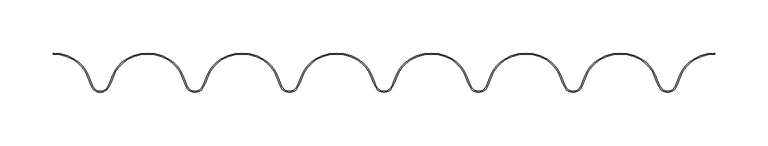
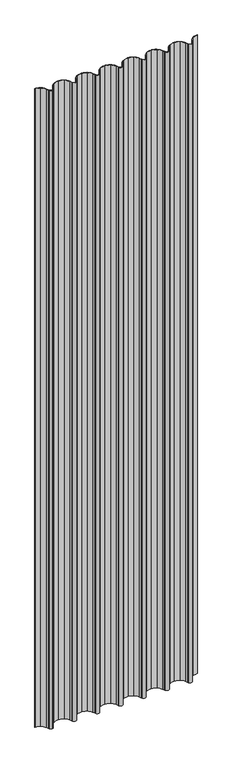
"""IFC4 building model written with IfcOpenShell, lengths in millimetres: plate geometry, Regolare Couverture 623  : Regolare Couverture 623 ."""

from ifc_helpers import new_model, si_unit, point, frame_2d, origin, origin_with_axes, place, context, project, spatial, polyline, circle_curve, trimmed, segment, composite_curve, outline, extrude, source, transform, mapped, element, save


def plate_453710f5(model_context):
    return source(origin(), model_context, "Body", "SweptSolid", [
        extrude(outline(composite_curve([segment(trimmed(circle_curve(frame_2d((-311.6802118, -1.5098563)), 37.4503244), [point((-292.1394616, 30.4383187))], [point((-311.6802118, 35.9404682))], True, "CARTESIAN"), True, "CONTINUOUS"), segment(polyline([(-311.6802118, 35.9404682), (-311.6802118, 36.9404682)]), True, "CONTINUOUS"), segment(trimmed(circle_curve(frame_2d((-311.6802118, -1.5098563)), 38.4503244), [point((-311.6802118, 36.9404682))], [point((-291.6176838, 31.2914001))], False, "CARTESIAN"), True, "CONTINUOUS"), segment(trimmed(circle_curve(frame_2d((-308.1145665, 4.3198001)), 31.6166783), [point((-291.6176838, 31.2914001))], [point((-278.7590823, 16.0616012))], False, "CARTESIAN"), True, "CONTINUOUS"), segment(polyline([(-278.7590823, 16.0616012), (-275.8898606, 8.8980757), (-274.2435069, 5.4633665)]), True, "CONTINUOUS"), segment(trimmed(circle_curve(frame_2d((-267.1544672, 8.8613445)), 7.8613445), [point((-274.2435069, 5.4633665))], [point((-267.1544672, 1.0))], True, "CARTESIAN"), True, "CONTINUOUS"), segment(trimmed(circle_curve(frame_2d((-267.1544672, 8.8613445)), 7.8613445), [point((-267.1544672, 1.0))], [point((-260.0654276, 5.4633665))], True, "CARTESIAN"), True, "CONTINUOUS"), segment(polyline([(-260.0654276, 5.4633665), (-258.4190739, 8.8980757), (-255.5498522, 16.0616012)]), True, "CONTINUOUS"), segment(trimmed(circle_curve(frame_2d((-226.1943679, 4.3198001)), 31.6166783), [point((-255.5498522, 16.0616012))], [point((-242.6912507, 31.2914001))], False, "CARTESIAN"), True, "CONTINUOUS"), segment(trimmed(circle_curve(frame_2d((-222.6287227, -1.5098563)), 38.4503244), [point((-242.6912507, 31.2914001))], [point((-222.6287227, 36.9404682))], False, "CARTESIAN"), True, "CONTINUOUS"), segment(trimmed(circle_curve(frame_2d((-222.6287227, -1.5098563)), 38.4503244), [point((-222.6287227, 36.9404682))], [point((-202.5661947, 31.2914001))], False, "CARTESIAN"), True, "CONTINUOUS"), segment(trimmed(circle_curve(frame_2d((-219.0630775, 4.3198001)), 31.6166783), [point((-202.5661947, 31.2914001))], [point((-189.7075932, 16.0616012))], False, "CARTESIAN"), True, "CONTINUOUS"), segment(polyline([(-189.7075932, 16.0616012), (-186.8383715, 8.8980757), (-185.1920178, 5.4633665)]), True, "CONTINUOUS"), segment(trimmed(circle_curve(frame_2d((-178.1029782, 8.8613445)), 7.8613445), [point((-185.1920178, 5.4633665))], [point((-171.0139385, 5.4633665))], True, "CARTESIAN"), True, "CONTINUOUS"), segment(polyline([(-171.0139385, 5.4633665), (-169.3675848, 8.8980757), (-166.498363, 16.0616014)]), True, "CONTINUOUS"), segment(trimmed(circle_curve(frame_2d((-137.1428789, 4.3198001)), 31.6166783), [point((-166.498363, 16.0616014))], [point((-153.6397616, 31.2914001))], False, "CARTESIAN"), True, "CONTINUOUS"), segment(trimmed(circle_curve(frame_2d((-133.5772336, -1.5098563)), 38.4503244), [point((-153.6397616, 31.2914001))], [point((-133.5772336, 36.9404682))], False, "CARTESIAN"), True, "CONTINUOUS"), segment(trimmed(circle_curve(frame_2d((-133.5772336, -1.5098563)), 38.4503244), [point((-133.5772336, 36.9404682))], [point((-113.5147056, 31.2914001))], False, "CARTESIAN"), True, "CONTINUOUS"), segment(trimmed(circle_curve(frame_2d((-130.0115884, 4.3198001)), 31.6166783), [point((-113.5147056, 31.2914001))], [point((-100.6561042, 16.0616014))], False, "CARTESIAN"), True, "CONTINUOUS"), segment(polyline([(-100.6561042, 16.0616014), (-97.7868824, 8.8980757), (-96.1405287, 5.4633665)]), True, "CONTINUOUS"), segment(trimmed(circle_curve(frame_2d((-89.0514891, 8.8613445)), 7.8613445), [point((-96.1405287, 5.4633665))], [point((-81.9624494, 5.4633665))], True, "CARTESIAN"), True, "CONTINUOUS"), segment(polyline([(-81.9624494, 5.4633665), (-80.3160957, 8.8980757), (-77.446874, 16.0616012)]), True, "CONTINUOUS"), segment(trimmed(circle_curve(frame_2d((-48.0913898, 4.3198001)), 31.6166783), [point((-77.446874, 16.0616012))], [point((-64.5882725, 31.2914001))], False, "CARTESIAN"), True, "CONTINUOUS"), segment(trimmed(circle_curve(frame_2d((-44.5257445, -1.5098563)), 38.4503244), [point((-64.5882725, 31.2914001))], [point((-44.5257445, 36.9404682))], False, "CARTESIAN"), True, "CONTINUOUS"), segment(trimmed(circle_curve(frame_2d((-44.5257445, -1.5098563)), 38.4503244), [point((-44.5257445, 36.9404682))], [point((-24.4632165, 31.2914001))], False, "CARTESIAN"), True, "CONTINUOUS"), segment(trimmed(circle_curve(frame_2d((-40.9600993, 4.3198001)), 31.6166783), [point((-24.4632165, 31.2914001))], [point((-11.604615, 16.061601))], False, "CARTESIAN"), True, "CONTINUOUS"), segment(polyline([(-11.604615, 16.061601), (-8.7353934, 8.8980757), (-7.0890396, 5.4633665)]), True, "CONTINUOUS"), segment(trimmed(circle_curve(frame_2d((0.0, 8.8613445)), 7.8613445), [point((-7.0890396, 5.4633665))], [point((7.0890396, 5.4633665))], True, "CARTESIAN"), True, "CONTINUOUS"), segment(polyline([(7.0890396, 5.4633665), (8.7353934, 8.8980757), (11.6046151, 16.0616012)]), True, "CONTINUOUS"), segment(trimmed(circle_curve(frame_2d((40.9600993, 4.3198001)), 31.6166783), [point((11.6046151, 16.0616012))], [point((24.4632165, 31.2914001))], False, "CARTESIAN"), True, "CONTINUOUS"), segment(trimmed(circle_curve(frame_2d((44.5257445, -1.5098563)), 38.4503244), [point((24.4632165, 31.2914001))], [point((44.5257445, 36.9404682))], False, "CARTESIAN"), True, "CONTINUOUS"), segment(trimmed(circle_curve(frame_2d((44.5257445, -1.5098563)), 38.4503244), [point((44.5257445, 36.9404682))], [point((64.5882725, 31.2914001))], False, "CARTESIAN"), True, "CONTINUOUS"), segment(trimmed(circle_curve(frame_2d((48.0913898, 4.3198001)), 31.6166783), [point((64.5882725, 31.2914001))], [point((77.446874, 16.0616012))], False, "CARTESIAN"), True, "CONTINUOUS"), segment(polyline([(77.446874, 16.0616012), (80.3160957, 8.8980757), (81.9624494, 5.4633665)]), True, "CONTINUOUS"), segment(trimmed(circle_curve(frame_2d((89.0514891, 8.8613445)), 7.8613445), [point((81.9624494, 5.4633665))], [point((96.1405287, 5.4633665))], True, "CARTESIAN"), True, "CONTINUOUS"), segment(polyline([(96.1405287, 5.4633665), (97.7868824, 8.8980757), (100.6561042, 16.0616012)]), True, "CONTINUOUS"), segment(trimmed(circle_curve(frame_2d((130.0115884, 4.3198001)), 31.6166783), [point((100.6561042, 16.0616012))], [point((113.5147056, 31.2914001))], False, "CARTESIAN"), True, "CONTINUOUS"), segment(trimmed(circle_curve(frame_2d((133.5772336, -1.5098563)), 38.4503244), [point((113.5147056, 31.2914001))], [point((133.5772336, 36.9404682))], False, "CARTESIAN"), True, "CONTINUOUS"), segment(trimmed(circle_curve(frame_2d((133.5772336, -1.5098563)), 38.4503244), [point((133.5772336, 36.9404682))], [point((153.6397616, 31.2914001))], False, "CARTESIAN"), True, "CONTINUOUS"), segment(trimmed(circle_curve(frame_2d((137.1428789, 4.3198001)), 31.6166783), [point((153.6397616, 31.2914001))], [point((166.4983631, 16.0616012))], False, "CARTESIAN"), True, "CONTINUOUS"), segment(polyline([(166.4983631, 16.0616012), (169.3675848, 8.8980757), (171.0139385, 5.4633665)]), True, "CONTINUOUS"), segment(trimmed(circle_curve(frame_2d((178.1029782, 8.8613445)), 7.8613445), [point((171.0139385, 5.4633665))], [point((185.1920178, 5.4633665))], True, "CARTESIAN"), True, "CONTINUOUS"), segment(polyline([(185.1920178, 5.4633665), (186.8383715, 8.8980757), (189.7075932, 16.0616012)]), True, "CONTINUOUS"), segment(trimmed(circle_curve(frame_2d((219.0630775, 4.3198001)), 31.6166783), [point((189.7075932, 16.0616012))], [point((202.5661947, 31.2914001))], False, "CARTESIAN"), True, "CONTINUOUS"), segment(trimmed(circle_curve(frame_2d((222.6287227, -1.5098563)), 38.4503244), [point((202.5661947, 31.2914001))], [point((222.6287227, 36.9404682))], False, "CARTESIAN"), True, "CONTINUOUS"), segment(trimmed(circle_curve(frame_2d((222.6287227, -1.5098563)), 38.4503244), [point((222.6287227, 36.9404682))], [point((242.6912507, 31.2914001))], False, "CARTESIAN"), True, "CONTINUOUS"), segment(trimmed(circle_curve(frame_2d((226.1943679, 4.3198001)), 31.6166783), [point((242.6912507, 31.2914001))], [point((255.5498522, 16.0616012))], False, "CARTESIAN"), True, "CONTINUOUS"), segment(polyline([(255.5498522, 16.0616012), (258.4190739, 8.8980757), (260.0654276, 5.4633665)]), True, "CONTINUOUS"), segment(trimmed(circle_curve(frame_2d((267.1544672, 8.8613445)), 7.8613445), [point((260.0654276, 5.4633665))], [point((274.2435069, 5.4633665))], True, "CARTESIAN"), True, "CONTINUOUS"), segment(polyline([(274.2435069, 5.4633665), (275.8898606, 8.8980757), (278.7590823, 16.0616012)]), True, "CONTINUOUS"), segment(trimmed(circle_curve(frame_2d((308.1145665, 4.3198001)), 31.6166783), [point((278.7590823, 16.0616012))], [point((291.6176838, 31.2914001))], False, "CARTESIAN"), True, "CONTINUOUS"), segment(trimmed(circle_curve(frame_2d((311.6802118, -1.5098563)), 38.4503244), [point((291.6176838, 31.2914001))], [point((311.6802118, 36.9404682))], False, "CARTESIAN"), True, "CONTINUOUS"), segment(polyline([(311.6802118, 36.9404682), (311.6802118, 35.9404682)]), True, "CONTINUOUS"), segment(trimmed(circle_curve(frame_2d((311.6802118, -1.5098563)), 37.4503244), [point((311.6802118, 35.9404682))], [point((292.1394616, 30.4383187))], True, "CARTESIAN"), True, "CONTINUOUS"), segment(trimmed(circle_curve(frame_2d((308.1145665, 4.3198001)), 30.6166783), [point((292.1394616, 30.4383187))], [point((279.6874767, 15.6900047))], True, "CARTESIAN"), True, "CONTINUOUS"), segment(polyline([(279.6874767, 15.6900047), (276.8058908, 8.4956098), (275.1452661, 5.0311277)]), True, "CONTINUOUS"), segment(trimmed(circle_curve(frame_2d((267.1544672, 8.8613445)), 8.8613445), [point((275.1452661, 5.0311277))], [point((259.1636684, 5.0311277))], False, "CARTESIAN"), True, "CONTINUOUS"), segment(polyline([(259.1636684, 5.0311277), (257.5030437, 8.4956098), (254.6214578, 15.6900047)]), True, "CONTINUOUS"), segment(trimmed(circle_curve(frame_2d((226.1943679, 4.3198001)), 30.6166783), [point((254.6214578, 15.6900047))], [point((242.1694728, 30.4383187))], True, "CARTESIAN"), True, "CONTINUOUS"), segment(trimmed(circle_curve(frame_2d((222.6287227, -1.5098563)), 37.4503244), [point((242.1694728, 30.4383187))], [point((222.6287227, 35.9404682))], True, "CARTESIAN"), True, "CONTINUOUS"), segment(trimmed(circle_curve(frame_2d((222.6287227, -1.5098563)), 37.4503244), [point((222.6287227, 35.9404682))], [point((203.0879726, 30.4383187))], True, "CARTESIAN"), True, "CONTINUOUS"), segment(trimmed(circle_curve(frame_2d((219.0630775, 4.3198001)), 30.6166783), [point((203.0879726, 30.4383187))], [point((190.6359876, 15.6900047))], True, "CARTESIAN"), True, "CONTINUOUS"), segment(polyline([(190.6359876, 15.6900047), (187.7544017, 8.4956098), (186.093777, 5.0311277)]), True, "CONTINUOUS"), segment(trimmed(circle_curve(frame_2d((178.1029782, 8.8613445)), 8.8613445), [point((186.093777, 5.0311277))], [point((170.1121793, 5.0311277))], False, "CARTESIAN"), True, "CONTINUOUS"), segment(polyline([(170.1121793, 5.0311277), (168.4515546, 8.4956098), (165.5699687, 15.6900047)]), True, "CONTINUOUS"), segment(trimmed(circle_curve(frame_2d((137.1428789, 4.3198001)), 30.6166783), [point((165.5699687, 15.6900047))], [point((153.1179838, 30.4383187))], True, "CARTESIAN"), True, "CONTINUOUS"), segment(trimmed(circle_curve(frame_2d((133.5772336, -1.5098563)), 37.4503244), [point((153.1179838, 30.4383187))], [point((133.5772336, 35.9404682))], True, "CARTESIAN"), True, "CONTINUOUS"), segment(trimmed(circle_curve(frame_2d((133.5772336, -1.5098563)), 37.4503244), [point((133.5772336, 35.9404682))], [point((114.0364835, 30.4383187))], True, "CARTESIAN"), True, "CONTINUOUS"), segment(trimmed(circle_curve(frame_2d((130.0115884, 4.3198001)), 30.6166783), [point((114.0364835, 30.4383187))], [point((101.5844985, 15.6900047))], True, "CARTESIAN"), True, "CONTINUOUS"), segment(polyline([(101.5844985, 15.6900047), (98.7029126, 8.4956098), (97.0422879, 5.0311277)]), True, "CONTINUOUS"), segment(trimmed(circle_curve(frame_2d((89.0514891, 8.8613445)), 8.8613445), [point((97.0422879, 5.0311277))], [point((81.0606903, 5.0311277))], False, "CARTESIAN"), True, "CONTINUOUS"), segment(polyline([(81.0606903, 5.0311277), (79.4000655, 8.4956098), (76.5184796, 15.6900047)]), True, "CONTINUOUS"), segment(trimmed(circle_curve(frame_2d((48.0913898, 4.3198001)), 30.6166783), [point((76.5184796, 15.6900047))], [point((64.0664947, 30.4383187))], True, "CARTESIAN"), True, "CONTINUOUS"), segment(trimmed(circle_curve(frame_2d((44.5257445, -1.5098563)), 37.4503244), [point((64.0664947, 30.4383187))], [point((44.5257445, 35.9404682))], True, "CARTESIAN"), True, "CONTINUOUS"), segment(trimmed(circle_curve(frame_2d((44.5257445, -1.5098563)), 37.4503244), [point((44.5257445, 35.9404682))], [point((24.9849944, 30.4383187))], True, "CARTESIAN"), True, "CONTINUOUS"), segment(trimmed(circle_curve(frame_2d((40.9600993, 4.3198001)), 30.6166783), [point((24.9849944, 30.4383187))], [point((12.5330095, 15.6900047))], True, "CARTESIAN"), True, "CONTINUOUS"), segment(polyline([(12.5330095, 15.6900047), (9.6514235, 8.4956098), (7.9907988, 5.0311277)]), True, "CONTINUOUS"), segment(trimmed(circle_curve(frame_2d((0.0, 8.8613445)), 8.8613445), [point((7.9907988, 5.0311277))], [point((-7.9907988, 5.0311277))], False, "CARTESIAN"), True, "CONTINUOUS"), segment(polyline([(-7.9907988, 5.0311277), (-9.6514235, 8.4956098), (-12.5330094, 15.6900045)]), True, "CONTINUOUS"), segment(trimmed(circle_curve(frame_2d((-40.9600993, 4.3198001)), 30.6166783), [point((-12.5330094, 15.6900045))], [point((-24.9849944, 30.4383187))], True, "CARTESIAN"), True, "CONTINUOUS"), segment(trimmed(circle_curve(frame_2d((-44.5257445, -1.5098563)), 37.4503244), [point((-24.9849944, 30.4383187))], [point((-44.5257445, 35.9404682))], True, "CARTESIAN"), True, "CONTINUOUS"), segment(trimmed(circle_curve(frame_2d((-44.5257445, -1.5098563)), 37.4503244), [point((-44.5257445, 35.9404682))], [point((-64.0664947, 30.4383187))], True, "CARTESIAN"), True, "CONTINUOUS"), segment(trimmed(circle_curve(frame_2d((-48.0913898, 4.3198001)), 30.6166783), [point((-64.0664947, 30.4383187))], [point((-76.5184796, 15.6900047))], True, "CARTESIAN"), True, "CONTINUOUS"), segment(polyline([(-76.5184796, 15.6900047), (-79.4000655, 8.4956098), (-81.0606903, 5.0311277)]), True, "CONTINUOUS"), segment(trimmed(circle_curve(frame_2d((-89.0514891, 8.8613445)), 8.8613445), [point((-81.0606903, 5.0311277))], [point((-97.0422879, 5.0311277))], False, "CARTESIAN"), True, "CONTINUOUS"), segment(polyline([(-97.0422879, 5.0311277), (-98.7029126, 8.4956098), (-101.5844986, 15.6900049)]), True, "CONTINUOUS"), segment(trimmed(circle_curve(frame_2d((-130.0115884, 4.3198001)), 30.6166783), [point((-101.5844986, 15.6900049))], [point((-114.0364835, 30.4383187))], True, "CARTESIAN"), True, "CONTINUOUS"), segment(trimmed(circle_curve(frame_2d((-133.5772336, -1.5098563)), 37.4503244), [point((-114.0364835, 30.4383187))], [point((-133.5772336, 35.9404682))], True, "CARTESIAN"), True, "CONTINUOUS"), segment(trimmed(circle_curve(frame_2d((-133.5772336, -1.5098563)), 37.4503244), [point((-133.5772336, 35.9404682))], [point((-153.1179838, 30.4383187))], True, "CARTESIAN"), True, "CONTINUOUS"), segment(trimmed(circle_curve(frame_2d((-137.1428789, 4.3198001)), 30.6166783), [point((-153.1179838, 30.4383187))], [point((-165.5699686, 15.6900049))], True, "CARTESIAN"), True, "CONTINUOUS"), segment(polyline([(-165.5699686, 15.6900049), (-168.4515546, 8.4956098), (-170.1121793, 5.0311277)]), True, "CONTINUOUS"), segment(trimmed(circle_curve(frame_2d((-178.1029782, 8.8613445)), 8.8613445), [point((-170.1121793, 5.0311277))], [point((-186.093777, 5.0311277))], False, "CARTESIAN"), True, "CONTINUOUS"), segment(polyline([(-186.093777, 5.0311277), (-187.7544017, 8.4956098), (-190.6359876, 15.6900047)]), True, "CONTINUOUS"), segment(trimmed(circle_curve(frame_2d((-219.0630775, 4.3198001)), 30.6166783), [point((-190.6359876, 15.6900047))], [point((-203.0879726, 30.4383187))], True, "CARTESIAN"), True, "CONTINUOUS"), segment(trimmed(circle_curve(frame_2d((-222.6287227, -1.5098563)), 37.4503244), [point((-203.0879726, 30.4383187))], [point((-222.6287227, 35.9404682))], True, "CARTESIAN"), True, "CONTINUOUS"), segment(trimmed(circle_curve(frame_2d((-222.6287227, -1.5098563)), 37.4503244), [point((-222.6287227, 35.9404682))], [point((-242.1694728, 30.4383187))], True, "CARTESIAN"), True, "CONTINUOUS"), segment(trimmed(circle_curve(frame_2d((-226.1943679, 4.3198001)), 30.6166783), [point((-242.1694728, 30.4383187))], [point((-254.6214578, 15.6900047))], True, "CARTESIAN"), True, "CONTINUOUS"), segment(polyline([(-254.6214578, 15.6900047), (-257.5030437, 8.4956098), (-259.1636684, 5.0311277)]), True, "CONTINUOUS"), segment(trimmed(circle_curve(frame_2d((-267.1544672, 8.8613445)), 8.8613445), [point((-259.1636684, 5.0311277))], [point((-267.1544672, 0.0))], False, "CARTESIAN"), True, "CONTINUOUS"), segment(trimmed(circle_curve(frame_2d((-267.1544672, 8.8613445)), 8.8613445), [point((-267.1544672, 0.0))], [point((-275.1452661, 5.0311277))], False, "CARTESIAN"), True, "CONTINUOUS"), segment(polyline([(-275.1452661, 5.0311277), (-276.8058908, 8.4956098), (-279.6874767, 15.6900047)]), True, "CONTINUOUS"), segment(trimmed(circle_curve(frame_2d((-308.1145665, 4.3198001)), 30.6166783), [point((-279.6874767, 15.6900047))], [point((-292.1394616, 30.4383187))], True, "CARTESIAN"), True, "CONTINUOUS")], self_intersect=False)), origin_with_axes(), (0.0, 0.0, 1.0), 2588.190451),
    ])


if __name__ == "__main__":
    model = new_model("IFC4")
    model_context = context("Model", 3, world=origin())
    ifc_project = project(units=[si_unit("LENGTHUNIT", "METRE", prefix="MILLI")], contexts=[model_context])
    site = spatial("IfcSite", under=ifc_project)
    building = spatial("IfcBuilding", under=site)
    placement = place(None, origin())
    plate_shape = plate_453710f5(model_context)
    element("IfcPlate", 1, ObjectType="Regolare Couverture 623  : Regolare Couverture 623 ", at=placement, inside=building, context=model_context, shape_type="MappedRepresentation", body=[
        mapped(plate_shape, transform((0.0, 0.0, 0.0), x_axis=(1.0, 0.0, 0.0), y_axis=(0.0, 1.0, 0.0), z_axis=(0.0, 0.0, 1.0))),
    ])
    save(model, "model.ifc")
